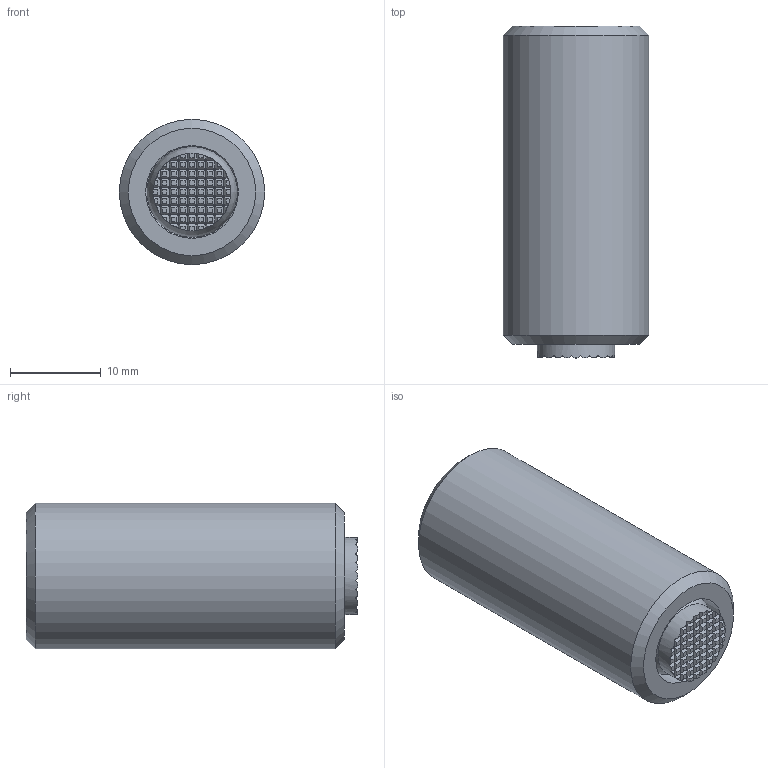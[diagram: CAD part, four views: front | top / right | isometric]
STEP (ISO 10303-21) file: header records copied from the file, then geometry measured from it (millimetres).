
FILE_DESCRIPTION( ( 'STEP AP203' ), '1' );
FILE_NAME( 'C:/Temp/Ganter_Step_05_03_2020/data/3_2/gn_709_8/gn_709_8r/Clamping pad GN 709.8-M16-35-R (0).stp', '2020-03-13T05:38:03', ( 'License CC BY-ND 4.0' ), ( 'CADENAS' ), ' ', 'PARTsolutions', ' ' );
FILE_SCHEMA( ( 'CONFIG_CONTROL_DESIGN' ) );
Length unit declared in the file: millimetre
Products named in the file (3): Clamping pad GN 709.8-M16-35-R (0); _Pendelelement GN 709.8-M16-35-R-1; _Pendelelement GN 709.8-M16-35-R-2
Assembly tree (2 placements, depth 2):
  Clamping pad GN 709.8-M16-35-R (0)
    _Pendelelement GN 709.8-M16-35-R-1
    _Pendelelement GN 709.8-M16-35-R-2
Bounding box: 16 x 36.5 x 16 mm (x, y, z)
Volume: 6568.1 mm3; surface area: 2864.4 mm2
Topology: 2 solids, 2 shells, 326 faces, 699 edges, 378 vertices
Faces by surface type: plane 319, cone 3, cylinder 3, sphere 1
Full cylindrical faces by diameter (mm): 8.5 x1, 10.18 x1, 16 x1
Entity records: 8426 total; most frequent: DIRECTION 1444, CARTESIAN_POINT 1396, ORIENTED_EDGE 1380, EDGE_CURVE 690, LINE 594, VECTOR 594, AXIS2_PLACEMENT_3D 425, VERTEX_POINT 377
